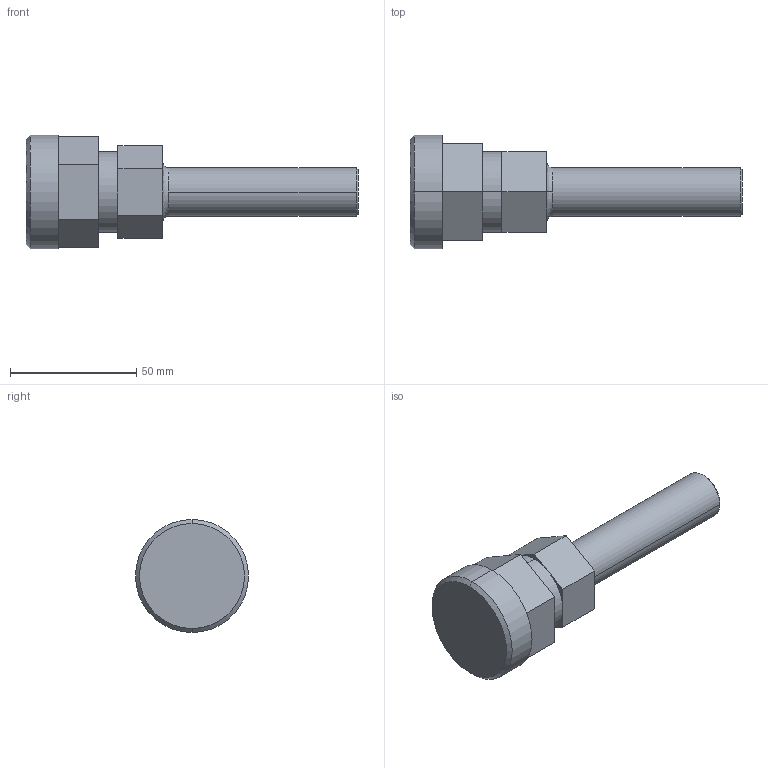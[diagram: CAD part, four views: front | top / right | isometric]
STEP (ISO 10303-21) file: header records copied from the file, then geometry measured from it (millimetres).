
FILE_DESCRIPTION (( 'STEP AP214' ), '1' );
FILE_NAME ('12-tube-out-with-top-mount-adapter.STEP', '2012-11-27T21:06:00', ( '' ), ( '' ), 'SwSTEP 2.0', 'SolidWorks 2012', '' );
FILE_SCHEMA (( 'AUTOMOTIVE_DESIGN' ));
Length unit declared in the file: inch
Products named in the file (1): 12-tube-out-with-top-mount-adapter
Bounding box: 131.24 x 44.7 x 44.7 mm (x, y, z)
Volume: 83416.9 mm3; surface area: 14305.4 mm2
Topology: 1 solids, 1 shells, 35 faces, 80 edges, 50 vertices
Faces by surface type: plane 23, cylinder 6, cone 4, bspline 2
Entity records: 1431 total; most frequent: CARTESIAN_POINT 428, DIRECTION 168, ORIENTED_EDGE 160, EDGE_CURVE 80, AXIS2_PLACEMENT_3D 58, LINE 52, VECTOR 52, VERTEX_POINT 50
